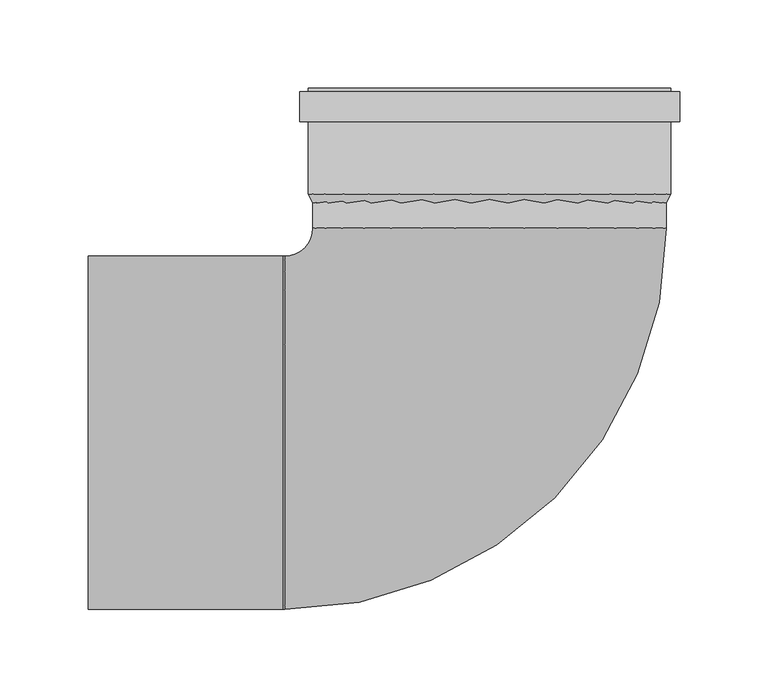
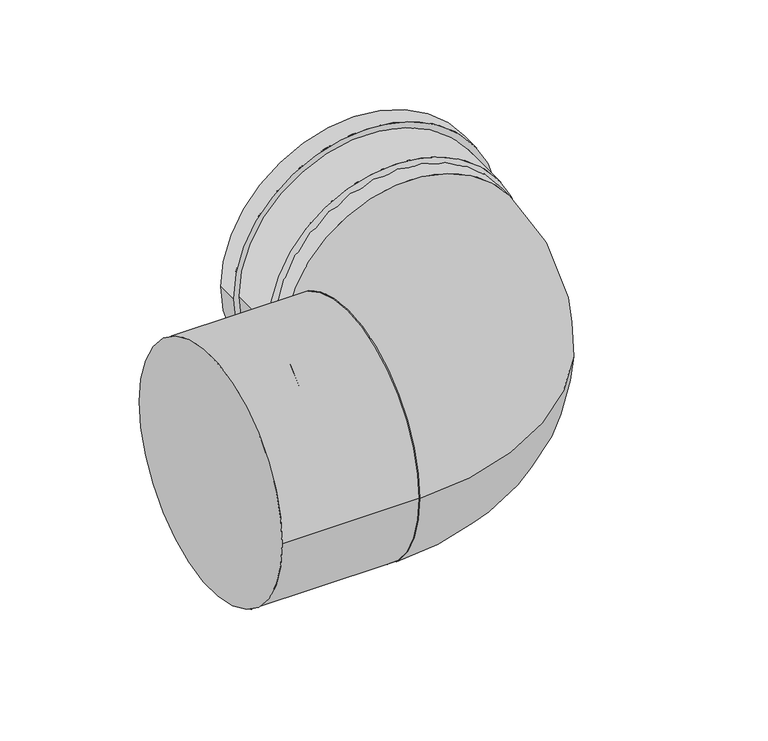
"""IFC4 building model written with IfcOpenShell, lengths in millimetres: duct fitting geometry, DERS_431_LFT_UN_Twinline Bend_M&G : ø130 - 150 - 200."""

from ifc_helpers import new_model, si_unit, point, frame, origin, origin_2d, place, context, project, spatial, polyline, circle_curve, ellipse_curve, trimmed, segment, composite_curve, outline, extrude, source, transform, mapped, element, save
from ifc_brep_helpers import plane_surface, cylinder_surface, revolved_surface, advanced_brep


def duct_fitting_345853f5(model_context):
    return source(origin(), model_context, "Body", "SolidModel", [
        advanced_brep(
        [(-227.0, 100.0, 0.0), (-227.0, -100.0, 0.0), (-117.0, 100.0, 0.0), (-117.0, -100.0, 0.0), (-116.0, -100.0, 0.0), (-116.0, 100.0, 0.0), (100.0, 116.0, 0.0), (-100.0, 116.0, 0.0), (100.0, 135.0, 0.0), (0.0, 135.0, 100.0), (-100.0, 135.0, 0.0), (0.0, 135.0, -100.0), (0.0, 137.0, -100.0), (0.0, 137.0, 100.0)],
        [
            (0, 1, circle_curve(frame((-227.0, 0.0, 0.0), z_axis=(-1.0, 0.0, 0.0), x_axis=(0.0, -1.0, 0.0)), 100.0)),
            (1, 0, circle_curve(frame((-227.0, 0.0, 0.0), z_axis=(-1.0, 0.0, 0.0), x_axis=(0.0, -1.0, 0.0)), 100.0)),
            (0, 2),
            (2, 3, circle_curve(frame((-117.0, 0.0, 0.0), z_axis=(-1.0, 0.0, 0.0), x_axis=(0.0, -1.0, 0.0)), 100.0)),
            (3, 1),
            (3, 2, circle_curve(frame((-117.0, 0.0, 0.0), z_axis=(-1.0, 0.0, 0.0), x_axis=(0.0, -1.0, 0.0)), 100.0)),
            (3, 4),
            (4, 5, circle_curve(frame((-116.0, 0.0, 0.0), z_axis=(-1.0, 0.0, 0.0), x_axis=(0.0, 1.0, 0.0)), 100.0)),
            (5, 2),
            (5, 4, circle_curve(frame((-116.0, 0.0, 0.0), z_axis=(-1.0, 0.0, 0.0), x_axis=(0.0, 1.0, 0.0)), 100.0)),
            (4, 6, circle_curve(frame((-116.0, 116.0, 0.0), z_axis=(0.0, 0.0, 1.0), x_axis=(0.0, -1.0, 0.0)), 216.0)),
            (6, 7, circle_curve(frame((0.0, 116.0, 0.0), z_axis=(0.0, -1.0, 0.0), x_axis=(-1.0, 0.0, 0.0)), 100.0)),
            (7, 5, circle_curve(frame((-116.0, 116.0, 0.0), z_axis=(0.0, 0.0, -1.0), x_axis=(0.0, -1.0, 0.0)), 16.0)),
            (7, 6, circle_curve(frame((0.0, 116.0, 0.0), z_axis=(0.0, -1.0, 0.0), x_axis=(-1.0, 0.0, 0.0)), 100.0)),
            (6, 8),
            (8, 9, circle_curve(frame((0.0, 135.0, 0.0), z_axis=(0.0, -1.0, 0.0), x_axis=(-1.0, 0.0, 0.0)), 100.0)),
            (9, 10, circle_curve(frame((0.0, 135.0, 0.0), z_axis=(0.0, -1.0, 0.0), x_axis=(-1.0, 0.0, 0.0)), 100.0)),
            (10, 7),
            (10, 11, circle_curve(frame((0.0, 135.0, 0.0), z_axis=(0.0, -1.0, 0.0), x_axis=(-1.0, 0.0, 0.0)), 100.0)),
            (11, 8, circle_curve(frame((0.0, 135.0, 0.0), z_axis=(0.0, -1.0, 0.0), x_axis=(-1.0, 0.0, 0.0)), 100.0)),
            (12, 13, circle_curve(frame((0.0, 137.0, 0.0), z_axis=(0.0, 1.0, 0.0), x_axis=(0.0, 0.0, 1.0)), 100.0)),
            (13, 12, circle_curve(frame((0.0, 137.0, 0.0), z_axis=(0.0, 1.0, 0.0), x_axis=(0.0, 0.0, 1.0)), 100.0)),
            (12, 11),
            (9, 13),
        ],
        [
            plane_surface(frame((-227.0, -100.0, 0.0), z_axis=(-1.0, 0.0, 0.0), x_axis=(0.0, 0.0, 1.0))),
            cylinder_surface(frame((-117.0, 0.0, 0.0), z_axis=(-1.0, 0.0, 0.0), x_axis=(0.0, -1.0, 0.0)), 100.0),
            cylinder_surface(frame((-117.0, 0.0, 0.0), z_axis=(-1.0, 0.0, 0.0), x_axis=(0.0, 1.0, 0.0)), 100.0),
            revolved_surface(trimmed(ellipse_curve(frame((-116.0, 0.0, 0.0), z_axis=(-1.0, 0.0, 0.0), x_axis=(0.0, 1.0, 0.0)), 100.0, 100.0), [point((-116.0, -100.0, 0.0))], [point((-116.0, 100.0, 0.0))], True, "CARTESIAN"), (-116.0, 116.0, 0.0), (0.0, 0.0, 1.0)),
            revolved_surface(trimmed(ellipse_curve(frame((-116.0, 0.0, 0.0), z_axis=(-1.0, 0.0, 0.0), x_axis=(0.0, 1.0, 0.0)), 100.0, 100.0), [point((-116.0, 100.0, 0.0))], [point((-116.0, -100.0, 0.0))], True, "CARTESIAN"), (-116.0, 116.0, 0.0), (0.0, 0.0, 1.0)),
            cylinder_surface(frame((0.0, 116.0, 0.0), z_axis=(0.0, -1.0, 0.0), x_axis=(-1.0, 0.0, 0.0)), 100.0),
            plane_surface(frame((0.0, 137.0, 100.0), z_axis=(0.0, 1.0, 0.0), x_axis=(1.0, 0.0, 0.0))),
            cylinder_surface(frame((0.0, 135.0, 0.0), z_axis=(0.0, 1.0, 0.0), x_axis=(0.0, 0.0, 1.0)), 100.0),
        ],
        [
            (0, [[1, 2]]),
            (1, [[-1, 3, 4, 5]]),
            (1, [[-2, -5, 6, -3]]),
            (2, [[7, 8, 9, -6]]),
            (2, [[-7, -4, -9, 10]]),
            (3, [[-8, 11, 12, 13]]),
            (4, [[-10, -13, 14, -11]]),
            (5, [[-12, 15, 16, 17, 18]]),
            (5, [[-14, -18, 19, 20, -15]]),
            (6, [[21, 22]]),
            (7, [[-21, 23, -19, -17, 24]]),
            (7, [[-22, -24, -16, -20, -23]]),
        ],
    ),
        extrude(outline(composite_curve([segment(trimmed(circle_curve(origin_2d(), 107.5), [point((0.0, 107.5))], [point((0.0, -107.5))], False, "CARTESIAN"), True, "CONTINUOUS"), segment(trimmed(circle_curve(origin_2d(), 107.5), [point((0.0, -107.5))], [point((0.0, 107.5))], False, "CARTESIAN"), True, "CONTINUOUS")], self_intersect=False), holes=[composite_curve([segment(trimmed(circle_curve(origin_2d(), 102.5), [point((0.0, -102.5))], [point((0.0, 102.5))], True, "CARTESIAN"), True, "CONTINUOUS"), segment(trimmed(circle_curve(origin_2d(), 102.5), [point((0.0, 102.5))], [point((0.0, -102.5))], True, "CARTESIAN"), True, "CONTINUOUS")], self_intersect=False)]), frame((0.0, 176.0, 0.0), z_axis=(0.0, 1.0, 0.0), x_axis=(0.0, 0.0, 1.0)), (0.0, 0.0, 1.0), 17.0),
        advanced_brep(
        [(-102.5, 135.0, 0.0), (102.5, 135.0, 0.0), (102.5, 195.0, 0.0), (-102.5, 195.0, 0.0), (-100.0, 130.0, 0.0), (100.0, 130.0, 0.0), (-100.0, 195.0, 0.0), (100.0, 195.0, 0.0)],
        [
            (0, 1, circle_curve(frame((0.0, 135.0, 0.0), z_axis=(0.0, 1.0, 0.0), x_axis=(1.0, 0.0, 0.0)), 102.5)),
            (1, 2),
            (2, 3, circle_curve(frame((0.0, 195.0, 0.0), z_axis=(0.0, -1.0, 0.0), x_axis=(1.0, 0.0, 0.0)), 102.5)),
            (3, 0),
            (4, 5, circle_curve(frame((0.0, 130.0, 0.0), z_axis=(0.0, 1.0, 0.0), x_axis=(1.0, 0.0, 0.0)), 100.0)),
            (5, 1),
            (0, 4),
            (6, 7, circle_curve(frame((0.0, 195.0, 0.0), z_axis=(0.0, 1.0, 0.0), x_axis=(1.0, 0.0, 0.0)), 100.0)),
            (7, 5),
            (4, 6),
            (2, 3, circle_curve(frame((0.0, 195.0, 0.0), z_axis=(0.0, 1.0, 0.0), x_axis=(-1.0, 0.0, 0.0)), 102.5)),
            (6, 7, circle_curve(frame((0.0, 195.0, 0.0), z_axis=(0.0, -1.0, 0.0), x_axis=(-1.0, 0.0, 0.0)), 100.0)),
            (1, 0, circle_curve(frame((0.0, 135.0, 0.0), z_axis=(0.0, 1.0, 0.0), x_axis=(-1.0, 0.0, 0.0)), 102.5)),
            (5, 4, circle_curve(frame((0.0, 130.0, 0.0), z_axis=(0.0, 1.0, 0.0), x_axis=(-1.0, 0.0, 0.0)), 100.0)),
        ],
        [
            cylinder_surface(frame((0.0, 135.0, 0.0), z_axis=(0.0, -1.0, 0.0), x_axis=(1.0, 0.0, 0.0)), 102.5),
            revolved_surface(polyline([(102.5, 135.0, 0.0), (100.0, 130.0, 0.0)]), (0.0, 135.0, 0.0), (0.0, -1.0, 0.0)),
            revolved_surface(polyline([(100.0, 130.0, 0.0), (100.0, 195.0, 0.0)]), (0.0, 135.0, 0.0), (0.0, -1.0, 0.0)),
            plane_surface(frame((0.0, 195.0, 0.0), z_axis=(0.0, 1.0, 0.0), x_axis=(-1.0, 0.0, 0.0))),
            cylinder_surface(frame((0.0, 135.0, 0.0), z_axis=(0.0, -1.0, 0.0), x_axis=(-1.0, 0.0, 0.0)), 102.5),
            revolved_surface(polyline([(-102.5, 135.0, 0.0), (-100.0, 130.0, 0.0)]), (0.0, 135.0, 0.0), (0.0, -1.0, 0.0)),
            revolved_surface(polyline([(-100.0, 130.0, 0.0), (-100.0, 195.0, 0.0)]), (0.0, 135.0, 0.0), (0.0, -1.0, 0.0)),
        ],
        [
            (0, [[1, 2, 3, 4]]),
            (1, [[5, 6, -1, 7]]),
            (2, [[8, 9, -5, 10]]),
            (3, [[11, -3], [12, -8]]),
            (4, [[13, -4, -11, -2]]),
            (5, [[14, -7, -13, -6]]),
            (6, [[-12, -10, -14, -9]]),
        ],
    ),
    ])


if __name__ == "__main__":
    model = new_model("IFC4")
    model_context = context("Model", 3, world=origin())
    ifc_project = project(units=[si_unit("LENGTHUNIT", "METRE", prefix="MILLI")], contexts=[model_context])
    site = spatial("IfcSite", under=ifc_project)
    building = spatial("IfcBuilding", under=site)
    placement = place(None, origin())
    duct_fitting_shape = duct_fitting_345853f5(model_context)
    element("IfcDuctFitting", 1, ObjectType="DERS_431_LFT_UN_Twinline Bend_M&G : ø130 - 150 - 200", at=placement, inside=building, context=model_context, shape_type="MappedRepresentation", body=[
        mapped(duct_fitting_shape, transform((0.0, 0.0, 0.0), x_axis=(1.0, 0.0, 0.0), y_axis=(0.0, 1.0, 0.0), z_axis=(0.0, 0.0, 1.0))),
    ])
    save(model, "model.ifc")
